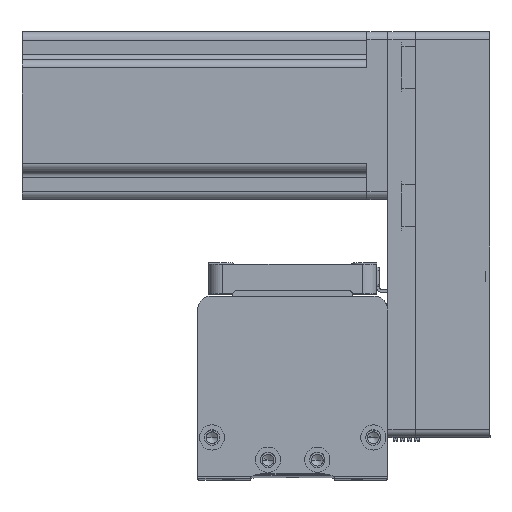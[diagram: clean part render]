
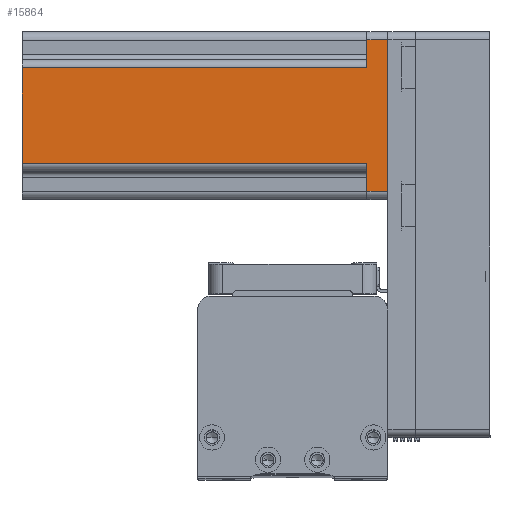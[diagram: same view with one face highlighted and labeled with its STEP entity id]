
A CAD part, top view. The second image highlights one B-rep face of the part: STEP entity #15864.
In plain terms, the highlighted planar face has unit normal (0, 0, 1) as drawn and (0, -1, 0) by its records, which use the part's own axes.
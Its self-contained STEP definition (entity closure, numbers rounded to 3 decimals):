
#527 = AXIS2_PLACEMENT_3D ( 'NONE', #27123, #7277, #30436 ) ;
#1136 = VECTOR ( 'NONE', #40080, 1000. ) ;
#1273 = CARTESIAN_POINT ( 'NONE',  ( 27., -30., 7.5 ) ) ;
#1311 = LINE ( 'NONE', #20515, #10098 ) ;
#2521 = VECTOR ( 'NONE', #15213, 1000. ) ;
#3558 = VECTOR ( 'NONE', #13255, 1000. ) ;
#3729 = LINE ( 'NONE', #14161, #12544 ) ;
#5442 = CARTESIAN_POINT ( 'NONE',  ( -27., -30., 0. ) ) ;
#6281 = DIRECTION ( 'NONE',  ( 0., 0., 1. ) ) ;
#6579 = CARTESIAN_POINT ( 'NONE',  ( -27., -30., 130.7 ) ) ;
#7175 = LINE ( 'NONE', #16735, #14974 ) ;
#7277 = DIRECTION ( 'NONE',  ( 0., 1., 0. ) ) ;
#7656 = ORIENTED_EDGE ( 'NONE', *, *, #8995, .T. ) ;
#7695 = VERTEX_POINT ( 'NONE', #27307 ) ;
#8995 = EDGE_CURVE ( 'NONE', #11335, #16789, #38768, .T. ) ;
#10098 = VECTOR ( 'NONE', #30462, 1000. ) ;
#10538 = VERTEX_POINT ( 'NONE', #35052 ) ;
#11303 = LINE ( 'NONE', #28355, #2521 ) ;
#11335 = VERTEX_POINT ( 'NONE', #17095 ) ;
#12544 = VECTOR ( 'NONE', #37305, 1000. ) ;
#12790 = EDGE_CURVE ( 'NONE', #25586, #15395, #3729, .T. ) ;
#13178 = EDGE_CURVE ( 'NONE', #13443, #30848, #39394, .T. ) ;
#13255 = DIRECTION ( 'NONE',  ( 0., 0., -1. ) ) ;
#13443 = VERTEX_POINT ( 'NONE', #40569 ) ;
#13512 = EDGE_CURVE ( 'NONE', #11335, #10538, #37304, .T. ) ;
#13677 = CARTESIAN_POINT ( 'NONE',  ( 27., -30., 0. ) ) ;
#14161 = CARTESIAN_POINT ( 'NONE',  ( 27., -30., 130.7 ) ) ;
#14968 = EDGE_CURVE ( 'NONE', #15395, #13443, #11303, .T. ) ;
#14974 = VECTOR ( 'NONE', #23538, 1000. ) ;
#15213 = DIRECTION ( 'NONE',  ( -1., 0., 0. ) ) ;
#15395 = VERTEX_POINT ( 'NONE', #1273 ) ;
#15864 = ADVANCED_FACE ( 'NONE', ( #22591 ), #30295, .F. ) ;
#16735 = CARTESIAN_POINT ( 'NONE',  ( 30., -30., 130.7 ) ) ;
#16789 = VERTEX_POINT ( 'NONE', #5442 ) ;
#17095 = CARTESIAN_POINT ( 'NONE',  ( -27., -30., 7.5 ) ) ;
#18053 = EDGE_CURVE ( 'NONE', #7695, #10538, #19794, .T. ) ;
#19718 = VECTOR ( 'NONE', #24373, 1000. ) ;
#19794 = LINE ( 'NONE', #36781, #1136 ) ;
#20031 = ORIENTED_EDGE ( 'NONE', *, *, #13512, .F. ) ;
#20515 = CARTESIAN_POINT ( 'NONE',  ( 30., -30., 0. ) ) ;
#22591 = FACE_OUTER_BOUND ( 'NONE', #29125, .T. ) ;
#22723 = ORIENTED_EDGE ( 'NONE', *, *, #38911, .F. ) ;
#23538 = DIRECTION ( 'NONE',  ( 1., 0., 0. ) ) ;
#24373 = DIRECTION ( 'NONE',  ( 1., 0., 0. ) ) ;
#25088 = ORIENTED_EDGE ( 'NONE', *, *, #14968, .T. ) ;
#25586 = VERTEX_POINT ( 'NONE', #13677 ) ;
#26131 = CARTESIAN_POINT ( 'NONE',  ( 17., -30., 130.7 ) ) ;
#26838 = CARTESIAN_POINT ( 'NONE',  ( 17., -30., 130.7 ) ) ;
#27123 = CARTESIAN_POINT ( 'NONE',  ( 30., -30., 130.7 ) ) ;
#27307 = CARTESIAN_POINT ( 'NONE',  ( -17., -30., 130.7 ) ) ;
#28355 = CARTESIAN_POINT ( 'NONE',  ( 20., -30., 7.5 ) ) ;
#29125 = EDGE_LOOP ( 'NONE', ( #22723, #30931, #20031, #7656, #32850, #37201, #25088, #30943 ) ) ;
#30295 = PLANE ( 'NONE',  #527 ) ;
#30436 = DIRECTION ( 'NONE',  ( -1., 0., 0. ) ) ;
#30462 = DIRECTION ( 'NONE',  ( 1., 0., 0. ) ) ;
#30848 = VERTEX_POINT ( 'NONE', #26838 ) ;
#30931 = ORIENTED_EDGE ( 'NONE', *, *, #18053, .T. ) ;
#30943 = ORIENTED_EDGE ( 'NONE', *, *, #13178, .T. ) ;
#31636 = VECTOR ( 'NONE', #6281, 1000. ) ;
#32850 = ORIENTED_EDGE ( 'NONE', *, *, #40098, .T. ) ;
#34381 = CARTESIAN_POINT ( 'NONE',  ( -20., -30., 7.5 ) ) ;
#35052 = CARTESIAN_POINT ( 'NONE',  ( -17., -30., 7.5 ) ) ;
#36781 = CARTESIAN_POINT ( 'NONE',  ( -17., -30., 130.7 ) ) ;
#37201 = ORIENTED_EDGE ( 'NONE', *, *, #12790, .T. ) ;
#37304 = LINE ( 'NONE', #34381, #19718 ) ;
#37305 = DIRECTION ( 'NONE',  ( 0., 0., 1. ) ) ;
#38768 = LINE ( 'NONE', #6579, #3558 ) ;
#38911 = EDGE_CURVE ( 'NONE', #7695, #30848, #7175, .T. ) ;
#39394 = LINE ( 'NONE', #26131, #31636 ) ;
#40080 = DIRECTION ( 'NONE',  ( 0., 0., -1. ) ) ;
#40098 = EDGE_CURVE ( 'NONE', #16789, #25586, #1311, .T. ) ;
#40569 = CARTESIAN_POINT ( 'NONE',  ( 17., -30., 7.5 ) ) ;
